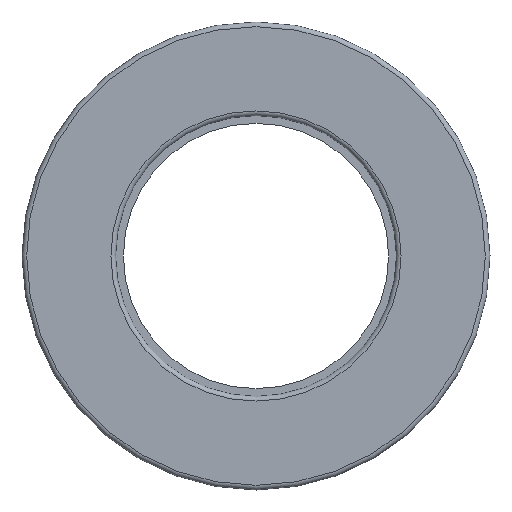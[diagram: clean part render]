
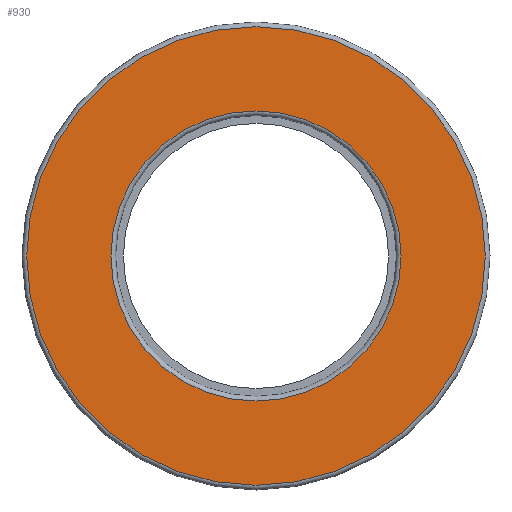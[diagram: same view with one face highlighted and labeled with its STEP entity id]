
A CAD part, front view. The second image highlights one B-rep face of the part: STEP entity #930.
In plain terms, the highlighted planar face has unit normal (0, -1, 0).
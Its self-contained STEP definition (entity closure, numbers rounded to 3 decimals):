
#267=PLANE('',#989);
#313=FACE_BOUND('',#400,.T.);
#346=FACE_OUTER_BOUND('',#399,.T.);
#399=EDGE_LOOP('',(#697));
#400=EDGE_LOOP('',(#698));
#481=CIRCLE('',#988,9.3);
#482=CIRCLE('',#990,14.7);
#499=VERTEX_POINT('',#1347);
#500=VERTEX_POINT('',#1350);
#581=EDGE_CURVE('',#499,#499,#481,.T.);
#582=EDGE_CURVE('',#500,#500,#482,.T.);
#697=ORIENTED_EDGE('',*,*,#582,.F.);
#698=ORIENTED_EDGE('',*,*,#581,.T.);
#930=ADVANCED_FACE('',(#346,#313),#267,.T.);
#988=AXIS2_PLACEMENT_3D('',#1348,#1080,#1081);
#989=AXIS2_PLACEMENT_3D('',#1349,#1082,#1083);
#990=AXIS2_PLACEMENT_3D('',#1351,#1084,#1085);
#1080=DIRECTION('center_axis',(0.,1.,0.));
#1081=DIRECTION('ref_axis',(1.,0.,0.));
#1082=DIRECTION('center_axis',(0.,-1.,0.));
#1083=DIRECTION('ref_axis',(0.,0.,-1.));
#1084=DIRECTION('center_axis',(0.,1.,0.));
#1085=DIRECTION('ref_axis',(1.,0.,0.));
#1347=CARTESIAN_POINT('',(-9.3,-4.5,0.));
#1348=CARTESIAN_POINT('Origin',(0.,-4.5,0.));
#1349=CARTESIAN_POINT('Origin',(-14.7,-4.5,0.));
#1350=CARTESIAN_POINT('',(-14.7,-4.5,0.));
#1351=CARTESIAN_POINT('Origin',(0.,-4.5,0.));
